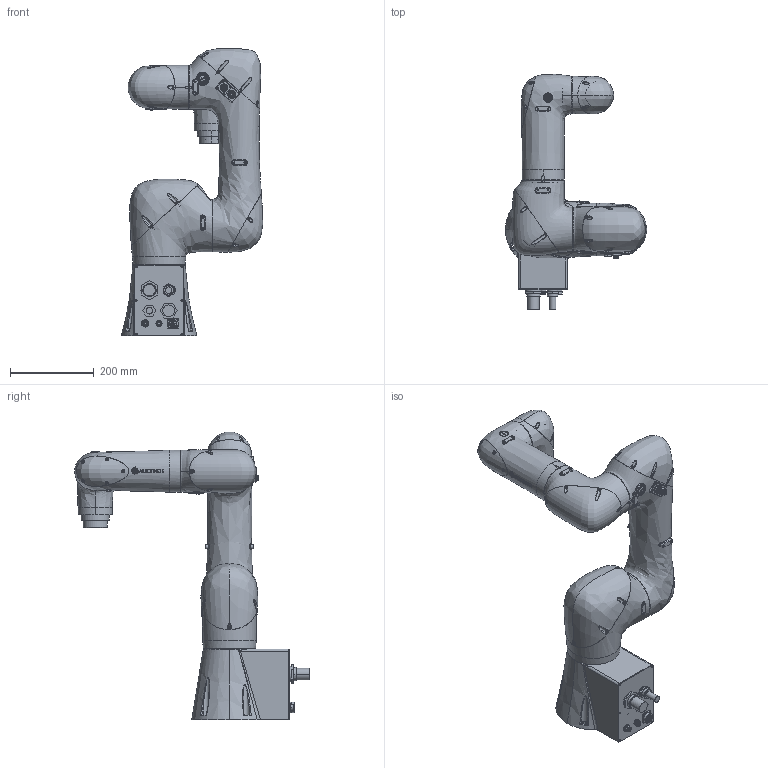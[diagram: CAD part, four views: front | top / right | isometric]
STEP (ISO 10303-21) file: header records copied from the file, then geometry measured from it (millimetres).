
FILE_DESCRIPTION(/* description */ (''),/* implementation_level */ '2;1');
FILE_NAME(/* name */ 'A-HSR-CR605-790_x_t.stp',/* time_stamp */ '2025-03-28T09:16:17+08:00',/* author */ (''),/* organization */ (''),/* preprocessor_version */ 'ST-DEVELOPER v16.7',/* originating_system */ 'SIEMENS PLM Software NX 12.0',/* authorisation */ '');
FILE_SCHEMA (('AUTOMOTIVE_DESIGN { 1 0 10303 214 3 1 1 1 }'));
Products named in the file (68): HSR-CR605-790-P01-202406^A-HSR-CR605_id336_x_t; HSR-CR605-790-P01-202406^A-HSR-CR605_id331_x_t; HSR-CR605-790-P01-202406^A-HSR-CR605_id326_x_t; HSR-CR605-790-P01-202406^A-HSR-CR605_id321_x_t; HSR-CR605-790-P01-202406^A-HSR-CR605_id316_x_t; HSR-CR605-790-P01-202406^A-HSR-CR605_id311_x_t; HSR-CR605-790-P01-202406^A-HSR-CR605_id306_x_t; HSR-CR605-790-P01-202406^A-HSR-CR605_id301_x_t; HSR-CR605-790-P01-202406^A-HSR-CR605_id296_x_t; HSR-CR605-790-P01-202406^A-HSR-CR605_id291_x_t; HSR-CR605-790-P01-202406^A-HSR-CR605_id286_x_t; HSR-CR605-790-P01-202406^A-HSR-CR605_id281_x_t; HSR-CR605-790-P02-202406^A-HSR-CR605_id276_x_t; HSR-CR605-790-P02-202406^A-HSR-CR605_id271_x_t; HSR-CR605-790-P02-202406^A-HSR-CR605_id266_x_t; HSR-CR605-790-P02-202406^A-HSR-CR605_id261_x_t; HSR-CR605-790-P02-202406^A-HSR-CR605_id256_x_t; HSR-CR605-790-P02-202406^A-HSR-CR605_id251_x_t; HSR-CR605-790-P02-202406^A-HSR-CR605_id246_x_t; HSR-CR605-790-P02-202406^A-HSR-CR605_id241_x_t; HSR-CR605-790-P02-202406^A-HSR-CR605_id236_x_t; HSR-CR605-790-P03-202406^A-HSR-CR605_id231_x_t; HSR-CR605-790-P03-202406^A-HSR-CR605_id226_x_t; HSR-CR605-790-P03-202406^A-HSR-CR605_id221_x_t; HSR-CR605-790-P03-202406^A-HSR-CR605_id216_x_t; HSR-CR605-790-P03-202406^A-HSR-CR605_id211_x_t; HSR-CR605-790-P03-202406^A-HSR-CR605_id206_x_t; HSR-CR605-790-P03-202406^A-HSR-CR605_id201_x_t; HSR-CR605-790-P03-202406^A-HSR-CR605_id196_x_t; HSR-CR605-790-P03-202406^A-HSR-CR605_id191_x_t; HSR-CR605-790-P03-202406^A-HSR-CR605_id186_x_t; HSR-CR605-790-P03-202406^A-HSR-CR605_id181_x_t; HSR-CR605-790-P03-202406^A-HSR-CR605_id176_x_t; HSR-CR605-790-P03-202406^A-HSR-CR605_id171_x_t; HSR-CR605-790-P03-202406^A-HSR-CR605_id166_x_t; HSR-CR605-790-P03-202406^A-HSR-CR605_id161_x_t; HSR-CR605-790-P03-202406^A-HSR-CR605_id156_x_t; HSR-CR605-790-P03-202406^A-HSR-CR605_id151_x_t; HSR-CR605-790-P03-202406^A-HSR-CR605_id146_x_t; HSR-CR605-790-P03-202406^A-HSR-CR605_id141_x_t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
Assembly tree (67 placements, depth 2):
  A-HSR-CR605-790_x_t
    HSR-CR605-790-P07-202406^A-HSR-CR605_id6_x_t
    HSR-CR605-790-P06-202406^A-HSR-CR605_id11_x_t
    HSR-CR605-790-P06-202406^A-HSR-CR605_id16_x_t
    HSR-CR605-790-P06-202406^A-HSR-CR605_id21_x_t
    HSR-CR605-790-P06-202406^A-HSR-CR605_id26_x_t
    HSR-CR605-790-P06-202406^A-HSR-CR605_id31_x_t
    HSR-CR605-790-P06-202406^A-HSR-CR605_id36_x_t
    HSR-CR605-790-P06-202406^A-HSR-CR605_id41_x_t
    HSR-CR605-790-P06-202406^A-HSR-CR605_id46_x_t
    HSR-CR605-790-P06-202406^A-HSR-CR605_id51_x_t
    HSR-CR605-790-P06-202406^A-HSR-CR605_id56_x_t
    HSR-CR605-790-P06-202406^A-HSR-CR605_id61_x_t
    HSR-CR605-790-P06-202406^A-HSR-CR605_id66_x_t
    HSR-CR605-790-P06-202406^A-HSR-CR605_id71_x_t
    HSR-CR605-790-P06-202406^A-HSR-CR605_id76_x_t
    HSR-CR605-790-P06-202406^A-HSR-CR605_id81_x_t
    HSR-CR605-790-P06-202406^A-HSR-CR605_id86_x_t
    HSR-CR605-790-P06-202406^A-HSR-CR605_id91_x_t
    HSR-CR605-790-P05-202406^A-HSR-CR605_id96_x_t
    HSR-CR605-790-P05-202406^A-HSR-CR605_id101_x_t
    HSR-CR605-790-P05-202406^A-HSR-CR605_id106_x_t
    HSR-CR605-790-P05-202406^A-HSR-CR605_id111_x_t
    HSR-CR605-790-P05-202406^A-HSR-CR605_id116_x_t
    HSR-CR605-790-P04-202406^A-HSR-CR605_id121_x_t
    HSR-CR605-790-P04-202406^A-HSR-CR605_id126_x_t
    HSR-CR605-790-P04-202406^A-HSR-CR605_id131_x_t
    HSR-CR605-790-P03-202406^A-HSR-CR605_id136_x_t
    HSR-CR605-790-P03-202406^A-HSR-CR605_id141_x_t
    HSR-CR605-790-P03-202406^A-HSR-CR605_id146_x_t
    HSR-CR605-790-P03-202406^A-HSR-CR605_id151_x_t
    HSR-CR605-790-P03-202406^A-HSR-CR605_id156_x_t
    HSR-CR605-790-P03-202406^A-HSR-CR605_id161_x_t
    HSR-CR605-790-P03-202406^A-HSR-CR605_id166_x_t
    HSR-CR605-790-P03-202406^A-HSR-CR605_id171_x_t
    HSR-CR605-790-P03-202406^A-HSR-CR605_id176_x_t
    HSR-CR605-790-P03-202406^A-HSR-CR605_id181_x_t
    HSR-CR605-790-P03-202406^A-HSR-CR605_id186_x_t
    HSR-CR605-790-P03-202406^A-HSR-CR605_id191_x_t
    HSR-CR605-790-P03-202406^A-HSR-CR605_id196_x_t
    HSR-CR605-790-P03-202406^A-HSR-CR605_id201_x_t
    HSR-CR605-790-P03-202406^A-HSR-CR605_id206_x_t
    HSR-CR605-790-P03-202406^A-HSR-CR605_id211_x_t
    HSR-CR605-790-P03-202406^A-HSR-CR605_id216_x_t
    HSR-CR605-790-P03-202406^A-HSR-CR605_id221_x_t
    HSR-CR605-790-P03-202406^A-HSR-CR605_id226_x_t
    HSR-CR605-790-P03-202406^A-HSR-CR605_id231_x_t
    HSR-CR605-790-P02-202406^A-HSR-CR605_id236_x_t
    HSR-CR605-790-P02-202406^A-HSR-CR605_id241_x_t
    HSR-CR605-790-P02-202406^A-HSR-CR605_id246_x_t
    HSR-CR605-790-P02-202406^A-HSR-CR605_id251_x_t
    HSR-CR605-790-P02-202406^A-HSR-CR605_id256_x_t
    HSR-CR605-790-P02-202406^A-HSR-CR605_id261_x_t
    HSR-CR605-790-P02-202406^A-HSR-CR605_id266_x_t
    HSR-CR605-790-P02-202406^A-HSR-CR605_id271_x_t
    HSR-CR605-790-P02-202406^A-HSR-CR605_id276_x_t
    HSR-CR605-790-P01-202406^A-HSR-CR605_id281_x_t
    HSR-CR605-790-P01-202406^A-HSR-CR605_id286_x_t
    HSR-CR605-790-P01-202406^A-HSR-CR605_id291_x_t
    HSR-CR605-790-P01-202406^A-HSR-CR605_id296_x_t
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Bounding box: 337.14 x 560.68 x 686.23 mm (x, y, z)
Volume: 17071315.8 mm3; surface area: 1134253.8 mm2
Topology: 63 solids, 68 shells, 2404 faces, 5761 edges, 3684 vertices
Faces by surface type: cylinder 831, plane 786, cone 383, bspline 284, torus 73, sphere 47
Full cylindrical faces by diameter (mm): 2.5 x6, 3.3 x4, 25 x1, 58.776 x1, 84.3 x1, 87.5 x1, 121 x1
Entity records: 194473 total; most frequent: CARTESIAN_POINT 138686, ORIENTED_EDGE 11170, DIRECTION 10007, EDGE_CURVE 5585, AXIS2_PLACEMENT_3D 4148, VERTEX_POINT 3686, EDGE_LOOP 2903, ADVANCED_FACE 2404
